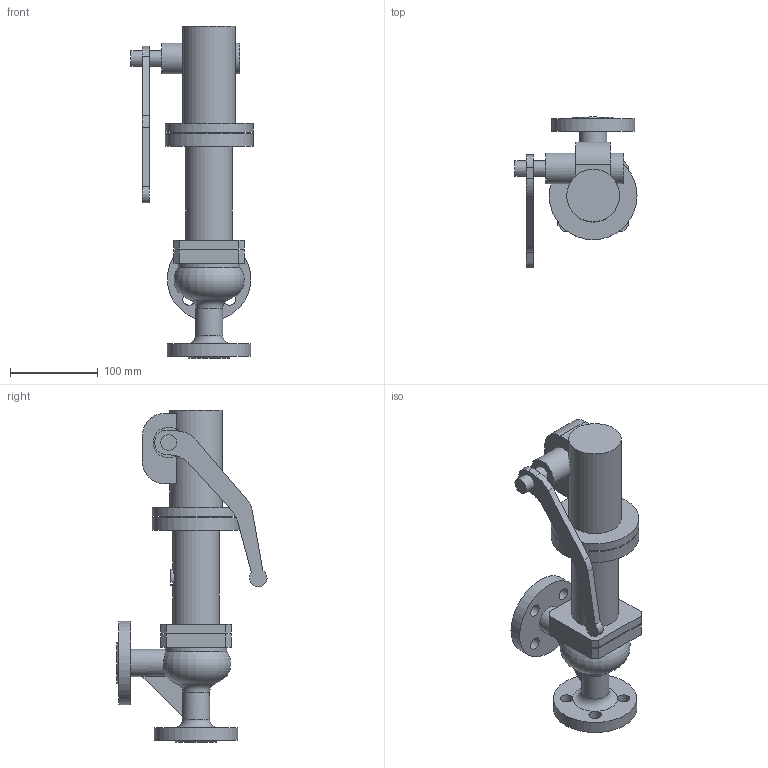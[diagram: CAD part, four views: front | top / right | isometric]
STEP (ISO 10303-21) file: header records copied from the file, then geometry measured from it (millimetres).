
FILE_DESCRIPTION(('STEP AP203'), '1');
FILE_NAME('Êëàïàí ïðåäîõðàíèòåëüíûé ñðåäíåïîäüåìíûé SV1F 15x15 ', '', ('UNSPECIFIED'), ('UNSPECIFIED'), 'ASCON STEP Converter 1.6', 'ASCON Math Kernel', '');
FILE_SCHEMA(('CONFIG_CONTROL_DESIGN'));
Length unit declared in the file: millimetre
Bounding box: 139 x 170.91 x 378 mm (x, y, z)
Volume: 1195336.5 mm3; surface area: 214912.6 mm2
Topology: 1 solids, 3 shells, 120 faces, 303 edges, 199 vertices
Faces by surface type: plane 69, cylinder 44, torus 4, cone 3
Full cylindrical faces by diameter (mm): 14 x8, 15 x3, 18 x2, 31 x2, 35 x2, 39 x1, 44 x1, 53 x1, 57 x1, 60 x1, 70 x1, 80 x1, 95 x2, 100 x2
Entity records: 5716 total; most frequent: CARTESIAN_POINT 1910, DIRECTION 581, ORIENTED_EDGE 528, EDGE_CURVE 264, AXIS2_PLACEMENT_3D 229, VERTEX_POINT 197, EDGE_LOOP 189, FACE_BOUND 142
